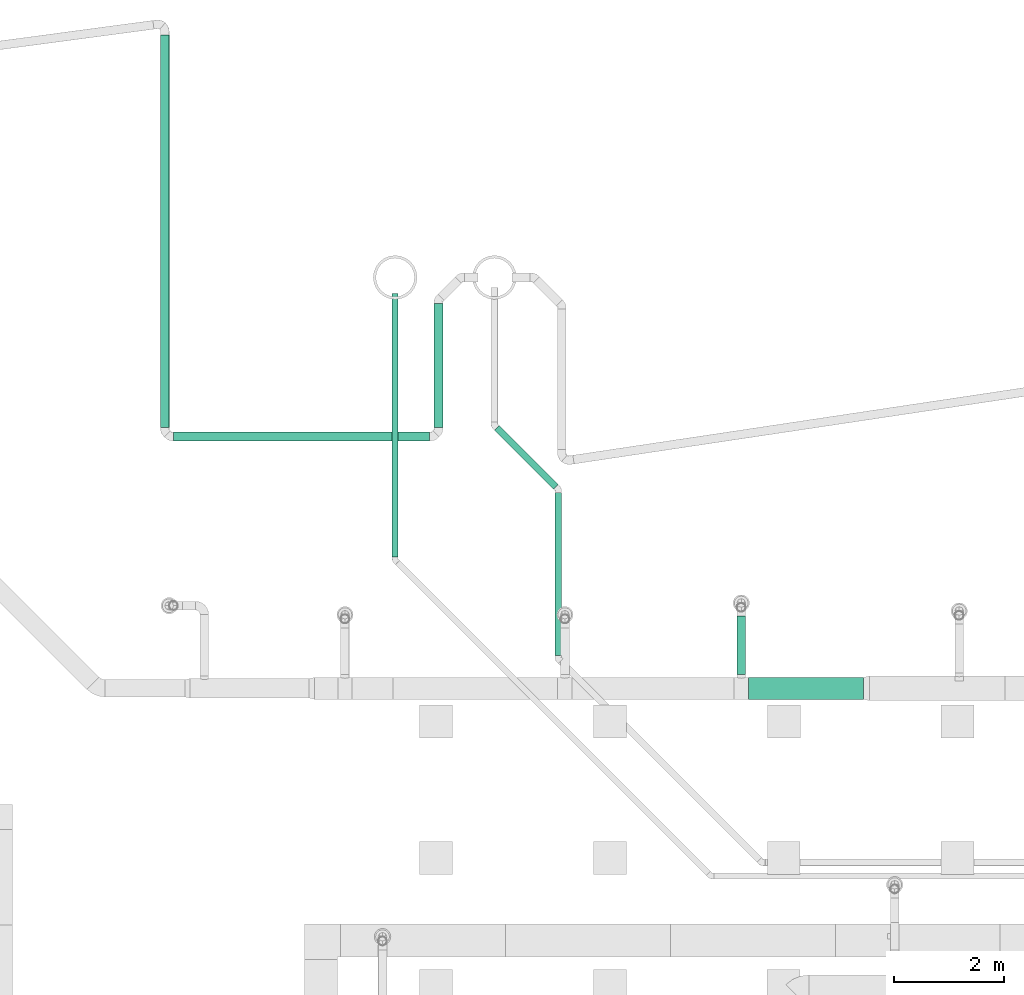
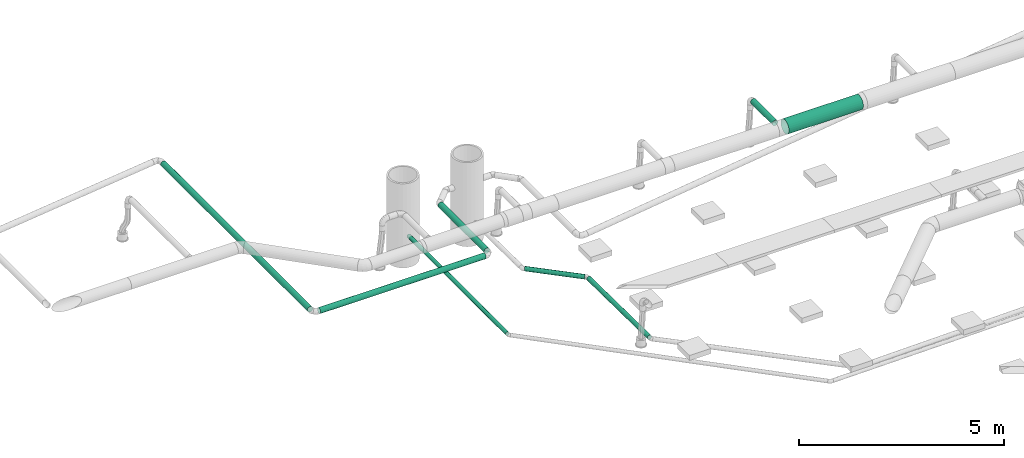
# One storey, part 221 of 374: 8 flow segments.
"""IFC2X3 building model written with IfcOpenShell, lengths in metres."""

import ifcopenshell
import ifcopenshell.guid

model = None  # the IFC model being written
_history = None  # IfcOwnerHistory: only IFC2X3 demands one
_inside = {}  # id of a spatial element -> (the spatial element, [elements in it])
_under = {}  # id of a project, library or spatial element -> (it, [spatial elements below it])
_declared = {}  # id of a project -> (the project, [libraries it declares])
_typed = {}  # id of a type object -> (the type object, [elements of that type])
_made_of = {}  # id of a material, layer set ... -> (it, [elements and type objects made of it])


def new_model(schema):
    """Start an empty IFC model of exactly this schema.

    Asked for "IFC4X3", IfcOpenShell would pick the latest addendum, in which some entities
    have other attributes; the version numbers below select the first issue.
    IFC2X3 requires an IfcOwnerHistory on every rooted entity: one is made here for all.
    """
    global model, _history
    if schema == "IFC4X3":
        model = ifcopenshell.file(schema_version=(4, 3, 0, 0))
    else:
        model = ifcopenshell.file(schema=schema)
    _inside.clear()
    _under.clear()
    _declared.clear()
    _typed.clear()
    _made_of.clear()
    _history = None
    if model.schema == "IFC2X3":
        org = make("IfcOrganization", Name="unknown")
        user = make(
            "IfcPersonAndOrganization",
            ThePerson=make("IfcPerson", FamilyName="unknown"),
            TheOrganization=org,
        )
        app = make(
            "IfcApplication",
            ApplicationDeveloper=org,
            Version="unknown",
            ApplicationFullName="unknown",
            ApplicationIdentifier="unknown",
        )
        _history = make(
            "IfcOwnerHistory",
            OwningUser=user,
            OwningApplication=app,
            ChangeAction="ADDED",
            CreationDate=0,
        )
    return model


def make(cls, **values):
    """One entity of the class cls with the attributes given. An attribute that is None is left unset."""
    return model.create_entity(
        cls, **{name: value for name, value in values.items() if value is not None}
    )


def rooted(cls, **values):
    """An entity with a GlobalId (a new one), such as an element, a storey or a relation."""
    return make(cls, GlobalId=ifcopenshell.guid.new(), OwnerHistory=_history, **values)


def si_unit(unit_type, name, prefix=None):
    """IfcSIUnit, for example si_unit("LENGTHUNIT", "METRE", prefix="MILLI")."""
    return make("IfcSIUnit", UnitType=unit_type, Prefix=prefix, Name=name)


def assignment(units):
    """IfcUnitAssignment: the units of a project."""
    return None if units is None else make("IfcUnitAssignment", Units=units)


def point(xyz):
    """IfcCartesianPoint."""
    return None if xyz is None else make("IfcCartesianPoint", Coordinates=xyz)


def direction(xyz):
    """IfcDirection."""
    return None if xyz is None else make("IfcDirection", DirectionRatios=xyz)


def frame(location, z_axis=None, x_axis=None):
    """IfcAxis2Placement3D, a coordinate frame: its origin and axes. An axis left out is left unset."""
    return make(
        "IfcAxis2Placement3D",
        Location=point(location),
        Axis=direction(z_axis),
        RefDirection=direction(x_axis),
    )


def origin():
    """The frame at (0, 0, 0) with its axes left unset."""
    return frame((0.0, 0.0, 0.0))


def place(relative_to, where):
    """IfcLocalPlacement: puts the frame where relative to a parent placement (None: the world)."""
    return make(
        "IfcLocalPlacement", PlacementRelTo=relative_to, RelativePlacement=where
    )


def context(
    kind, dimensions, precision=None, world=None, true_north=None, identifier=None
):
    """IfcGeometricRepresentationContext, for example the 3D "Model" context."""
    return make(
        "IfcGeometricRepresentationContext",
        ContextIdentifier=identifier,
        ContextType=kind,
        CoordinateSpaceDimension=dimensions,
        Precision=precision,
        WorldCoordinateSystem=world,
        TrueNorth=true_north,
    )


def subcontext(parent, identifier, kind, view, scale=None):
    """IfcGeometricRepresentationSubContext, for example "Body" below "Model"."""
    return make(
        "IfcGeometricRepresentationSubContext",
        ContextIdentifier=identifier,
        ContextType=kind,
        ParentContext=parent,
        TargetScale=scale,
        TargetView=view,
    )


def project(units=None, contexts=None):
    """IfcProject with its units and contexts."""
    return rooted(
        "IfcProject",
        Name="project",
        RepresentationContexts=contexts,
        UnitsInContext=assignment(units),
    )


def spatial(cls, under=None, at=None, **own):
    """A site, building, storey or space (cls), placed at a placement, below another one or the project."""
    s = rooted(cls, ObjectPlacement=at, **own)
    if under is not None:
        _under.setdefault(under.id(), (under, []))[1].append(s)
    return s


def faces_of(points, faces, orient=None, outer=None):
    """IfcFace entities. A face is a list of loops; a loop is a list of indices into points, from 0.

    orient and outer hold one flag for each loop. By default every Orientation is true, the
    first loop of a face is its IfcFaceOuterBound and the others are IfcFaceBound.
    """
    made = []
    for i, loops in enumerate(faces):
        bounds = []
        for j, loop in enumerate(loops):
            is_outer = j == 0 if outer is None else outer[i][j]
            bounds.append(
                make(
                    "IfcFaceOuterBound" if is_outer else "IfcFaceBound",
                    Bound=make("IfcPolyLoop", Polygon=[points[k] for k in loop]),
                    Orientation=True if orient is None else orient[i][j],
                )
            )
        made.append(make("IfcFace", Bounds=bounds))
    return made


def open_shell(faces, orient=None, outer=None):
    """The faces of one IfcOpenShell. surface_model builds it on its shared points."""
    return ("IfcOpenShell", faces, orient, outer)


def surface_model(cls, points, shells):
    """IfcFaceBasedSurfaceModel or IfcShellBasedSurfaceModel (cls): surfaces that need not close."""
    shared = [point(p) for p in points]
    made = [make(c, CfsFaces=faces_of(shared, fs, o, b)) for c, fs, o, b in shells]
    if cls == "IfcFaceBasedSurfaceModel":
        return make(cls, FbsmFaces=made)
    return make(cls, SbsmBoundary=made)


def shape(context_of_items, identifier, shape_type, items):
    """IfcShapeRepresentation: the items that make up one representation, for example the "Body"."""
    return make(
        "IfcShapeRepresentation",
        ContextOfItems=context_of_items,
        RepresentationIdentifier=identifier,
        RepresentationType=shape_type,
        Items=items,
    )


def source(mapping_origin, context_of_items, identifier, shape_type, items):
    """IfcRepresentationMap: a shape defined once, which mapped items show again and again."""
    return make(
        "IfcRepresentationMap",
        MappingOrigin=mapping_origin,
        MappedRepresentation=shape(context_of_items, identifier, shape_type, items),
    )


def transform(
    local_origin,
    x_axis=None,
    y_axis=None,
    z_axis=None,
    scale=None,
    scale2=None,
    scale3=None,
    uniform=True,
):
    """IfcCartesianTransformationOperator3D, or its non-uniform kind. x_axis, y_axis, z_axis: its Axis1, 2, 3."""
    if uniform:
        return make(
            "IfcCartesianTransformationOperator3D",
            Axis1=direction(x_axis),
            Axis2=direction(y_axis),
            LocalOrigin=point(local_origin),
            Scale=scale,
            Axis3=direction(z_axis),
        )
    return make(
        "IfcCartesianTransformationOperator3DnonUniform",
        Axis1=direction(x_axis),
        Axis2=direction(y_axis),
        LocalOrigin=point(local_origin),
        Scale=scale,
        Axis3=direction(z_axis),
        Scale2=scale2,
        Scale3=scale3,
    )


def mapped(mapping_source, mapping_target):
    """IfcMappedItem: shows the shape of a source again, moved by a transform."""
    return make(
        "IfcMappedItem", MappingSource=mapping_source, MappingTarget=mapping_target
    )


def made_of(thing, what):
    """Note that an element or type object is made of a material, layer set ...; save() writes the relation."""
    if what is not None:
        _made_of.setdefault(what.id(), (what, []))[1].append(thing)
    return thing


def element(
    cls,
    number,
    at=None,
    inside=None,
    cuts=None,
    type_object=None,
    material=None,
    context=None,
    identifier="Body",
    shape_type=None,
    held_by="IfcProductDefinitionShape",
    body=None,
    shapes=None,
    **own,
):
    """One element of the class cls, such as IfcWall. Its Tag is "e" and its number.

    at: its placement. inside: the storey or other place that contains it. cuts: it is an
    opening in that element (IfcRelVoidsElement). A single representation is given by context,
    identifier, shape_type and body (its items); several are given by shapes. held_by: the class
    of the entity that holds the representations. save() writes the other relations.
    """
    e = rooted(cls, Tag="e%d" % number, ObjectPlacement=at, **own)
    if body is not None:
        shapes = [shape(context, identifier, shape_type, body)]
    if shapes is not None:
        e.Representation = make(held_by, Representations=shapes)
    if inside is not None:
        _inside.setdefault(inside.id(), (inside, []))[1].append(e)
    if cuts is not None:
        rooted(
            "IfcRelVoidsElement", RelatingBuildingElement=cuts, RelatedOpeningElement=e
        )
    if type_object is not None:
        _typed.setdefault(type_object.id(), (type_object, []))[1].append(e)
    return made_of(e, material)


def aggregate(whole, parts):
    """IfcRelAggregates: a whole, such as a stair, and the parts it consists of."""
    return rooted("IfcRelAggregates", RelatingObject=whole, RelatedObjects=parts)


def save(model, path):
    """Write the relations noted so far, then the file.

    IfcRelAggregates (storeys below a building ...), IfcRelContainedInSpatialStructure (elements
    in a storey), IfcRelDefinesByType, IfcRelAssociatesMaterial and IfcRelDeclares: one each for
    every whole, place, type object, material and project.
    """
    for whole, parts in _under.values():
        aggregate(whole, parts)
    for where, things in _inside.values():
        rooted(
            "IfcRelContainedInSpatialStructure",
            RelatedElements=things,
            RelatingStructure=where,
        )
    for kind, things in _typed.values():
        rooted("IfcRelDefinesByType", RelatedObjects=things, RelatingType=kind)
    for what, things in _made_of.values():
        rooted("IfcRelAssociatesMaterial", RelatedObjects=things, RelatingMaterial=what)
    for by, libraries in _declared.values():
        rooted("IfcRelDeclares", RelatingContext=by, RelatedDefinitions=libraries)
    model.write(path)


model = new_model("IFC2X3")

# Units and contexts
model_context = context("Model", 3, precision=1e-05, world=origin(), true_north=direction((-0.4480736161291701, 0.8939966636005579)))
body_context = subcontext(model_context, "Body", "Model", "MODEL_VIEW")
ifc_project = project(units=[si_unit("LENGTHUNIT", "METRE"), si_unit("AREAUNIT", "SQUARE_METRE"), si_unit("VOLUMEUNIT", "CUBIC_METRE"), si_unit("PLANEANGLEUNIT", "RADIAN"), si_unit("THERMODYNAMICTEMPERATUREUNIT", "KELVIN"), si_unit("MASSUNIT", "GRAM", prefix="KILO"), si_unit("TIMEUNIT", "SECOND")], contexts=[model_context])

# Site, building, storey
site_placement = place(None, origin())
site = spatial("IfcSite", under=ifc_project, at=site_placement, Name="Site 1", CompositionType="ELEMENT")
building_placement = place(site_placement, origin())
building = spatial("IfcBuilding", under=site, at=building_placement, Name="Undefined", CompositionType="ELEMENT")
storey_placement = place(building_placement, origin())
storey = spatial("IfcBuildingStorey", under=building, at=storey_placement, Name="Rez de chauss\x8ee", CompositionType="ELEMENT", Elevation=0.0)

# Flow segments
shared_shape_1 = source(origin(), body_context, "Body", "SurfaceModel", [
    surface_model("IfcFaceBasedSurfaceModel", [(0.0, 0.020884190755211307, 0.0), (0.0, 0.0, 0.0), (7.143501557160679, 3.552713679e-15, 0.0), (7.143501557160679, 0.020884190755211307, 0.0), (0.0, -0.020172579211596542, -0.005405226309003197), (7.143501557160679, -0.020172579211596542, -0.005405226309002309), (0.0, -0.03825881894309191, -0.015847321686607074), (7.143501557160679, -0.038258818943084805, -0.015847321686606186), (0.0, -0.05302617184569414, -0.0306146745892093), (7.143501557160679, -0.053026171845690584, -0.030614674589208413), (0.0, -0.06346826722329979, -0.04870091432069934), (7.143501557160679, -0.06346826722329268, -0.04870091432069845), (0.0, -0.06887349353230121, -0.06887349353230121), (7.143501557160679, -0.06887349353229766, -0.06887349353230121), (0.0, -0.06887349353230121, -0.08975768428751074), (7.143501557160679, -0.0688734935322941, -0.08975768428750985), (0.0, -0.06346826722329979, -0.10993026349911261), (7.143501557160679, -0.06346826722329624, -0.1099302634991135), (0.0, -0.05302617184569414, -0.12801650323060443), (7.143501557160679, -0.05302617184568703, -0.1280165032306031), (0.0, -0.038258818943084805, -0.14278385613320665), (7.143501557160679, -0.038258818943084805, -0.142783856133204), (0.0, -0.020172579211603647, -0.15322595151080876), (7.143501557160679, -0.020172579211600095, -0.1532259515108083), (0.0, 7.105427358e-15, -0.15863117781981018), (7.143501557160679, 7.105427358e-15, -0.15863117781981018), (0.0, 0.020884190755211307, -0.15863117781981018), (7.143501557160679, 0.020884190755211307, -0.15863117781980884), (0.0, 0.04105676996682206, -0.15322595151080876), (7.143501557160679, 0.04105676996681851, -0.15322595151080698), (0.0, 0.05914300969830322, -0.1427838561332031), (7.143501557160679, 0.05914300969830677, -0.14278385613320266), (0.0, 0.07391036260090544, -0.12801650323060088), (7.143501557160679, 0.073910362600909, -0.12801650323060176), (0.0, 0.0843524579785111, -0.10993026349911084), (7.143501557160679, 0.0843524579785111, -0.10993026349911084), (0.0, 0.08975768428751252, -0.08975768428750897), (7.143501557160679, 0.08975768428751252, -0.08975768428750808), (0.0, 0.08975768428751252, -0.06887349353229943), (7.143501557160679, 0.08975768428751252, -0.06887349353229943), (0.0, 0.0843524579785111, -0.048700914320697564), (7.143501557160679, 0.08435245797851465, -0.048700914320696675), (0.0, 0.07391036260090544, -0.030614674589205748), (7.143501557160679, 0.073910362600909, -0.030614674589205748), (0.0, 0.05914300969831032, -0.015847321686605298), (7.143501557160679, 0.05914300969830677, -0.015847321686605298), (0.0, 0.04105676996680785, -0.005405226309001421), (7.143501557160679, 0.041056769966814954, -0.005405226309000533)], [open_shell([[[0, 1, 2, 3]], [[1, 4, 5, 2]], [[4, 6, 7, 5]], [[6, 8, 9, 7]], [[8, 10, 11, 9]], [[10, 12, 13, 11]], [[12, 14, 15, 13]], [[14, 16, 17, 15]], [[16, 18, 19, 17]], [[18, 20, 21, 19]], [[20, 22, 23, 21]], [[22, 24, 25, 23]], [[24, 26, 27, 25]], [[26, 28, 29, 27]], [[28, 30, 31, 29]], [[30, 32, 33, 31]], [[32, 34, 35, 33]], [[34, 36, 37, 35]], [[36, 38, 39, 37]], [[38, 40, 41, 39]], [[40, 42, 43, 41]], [[42, 44, 45, 43]], [[44, 46, 47, 45]], [[46, 0, 3, 47]]])]),
])
flow_segment_1_placement = place(storey_placement, origin())
element("IfcFlowSegment", 1, at=flow_segment_1_placement, inside=storey, Name="PE-HD tuyau", ObjectType="PE-HD tuyau", context=body_context, shape_type="MappedRepresentation", body=[
    mapped(shared_shape_1, transform((31.039457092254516, 25.269153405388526, -0.7163137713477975), x_axis=(0.0, 1.0, 0.0), y_axis=(-0.9914448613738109, 0.0, 0.1305261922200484), z_axis=(0.1305261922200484, 0.0, 0.9914448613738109))),
])
shared_shape_2 = source(origin(), body_context, "Body", "SurfaceModel", [
    surface_model("IfcFaceBasedSurfaceModel", [(4.655312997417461, 3.552713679e-15, 0.0), (4.65531323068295, 0.020884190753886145, 4.4408921e-16), (2.3326548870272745e-07, 0.020884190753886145, 4.4408921e-16), (0.0, 0.0, 0.0), (4.655313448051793, 0.041056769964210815, -0.005405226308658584), (4.506343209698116e-07, 0.041056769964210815, -0.00540522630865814), (4.655313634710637, 0.05914300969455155, -0.01584732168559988), (6.372931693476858e-07, 0.059143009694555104, -0.01584732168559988), (4.655313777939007, 0.07391036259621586, -0.030614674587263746), (7.805215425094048e-07, 0.07391036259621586, -0.030614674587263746), (4.655313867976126, 0.08435245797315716, -0.0487009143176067), (8.705586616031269e-07, 0.0843524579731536, -0.04870091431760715), (4.65531389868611, 0.08975768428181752, -0.0688734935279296), (9.012686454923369e-07, 0.08975768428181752, -0.06887349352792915), (4.655313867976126, 0.08975768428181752, -0.08975768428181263), (8.705586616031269e-07, 0.08975768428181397, -0.08975768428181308), (4.655313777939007, 0.08435245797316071, -0.10993026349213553), (7.805215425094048e-07, 0.08435245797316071, -0.10993026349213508), (4.655313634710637, 0.07391036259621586, -0.12801650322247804), (6.372931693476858e-07, 0.07391036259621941, -0.12801650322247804), (4.655313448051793, 0.059143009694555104, -0.14278385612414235), (4.506343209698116e-07, 0.059143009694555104, -0.1427838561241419), (4.65531323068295, 0.041056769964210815, -0.15322595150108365), (2.3326548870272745e-07, 0.041056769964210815, -0.15322595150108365), (4.655312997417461, 0.020884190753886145, -0.15863117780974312), (0.0, 0.020884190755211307, -0.15863117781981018), (4.655312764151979, 0.0, -0.15863117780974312), (-2.3326548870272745e-07, 7.105427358e-15, -0.15863117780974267), (4.6553125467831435, -0.020172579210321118, -0.15322595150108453), (-4.506343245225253e-07, -0.020172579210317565, -0.1532259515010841), (4.655312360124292, -0.038258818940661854, -0.14278385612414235), (-6.372931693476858e-07, -0.038258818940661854, -0.14278385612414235), (4.655312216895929, -0.05302617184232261, -0.12801650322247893), (-7.805215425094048e-07, -0.053026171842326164, -0.12801650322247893), (4.655312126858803, -0.06346826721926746, -0.10993026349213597), (-8.705586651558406e-07, -0.06346826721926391, -0.10993026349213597), (4.655312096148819, -0.06887349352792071, -0.08975768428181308), (-9.012686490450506e-07, -0.06887349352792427, -0.08975768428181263), (4.655312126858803, -0.06887349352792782, -0.06887349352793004), (-8.705586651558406e-07, -0.06887349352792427, -0.06887349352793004), (4.655312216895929, -0.06346826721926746, -0.04870091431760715), (-7.805215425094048e-07, -0.06346826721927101, -0.04870091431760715), (4.655312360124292, -0.053026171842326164, -0.030614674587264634), (-6.372931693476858e-07, -0.053026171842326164, -0.030614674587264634), (4.6553125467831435, -0.03825881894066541, -0.015847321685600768), (-4.506343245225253e-07, -0.038258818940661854, -0.015847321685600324), (4.655312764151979, -0.02017257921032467, -0.005405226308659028), (-2.3326548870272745e-07, -0.020172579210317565, -0.005405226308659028)], [open_shell([[[0, 1, 2, 3]], [[1, 4, 5, 2]], [[4, 6, 7, 5]], [[6, 8, 9, 7]], [[8, 10, 11, 9]], [[10, 12, 13, 11]], [[12, 14, 15, 13]], [[14, 16, 17, 15]], [[16, 18, 19, 17]], [[18, 20, 21, 19]], [[20, 22, 23, 21]], [[22, 24, 25, 23]], [[24, 26, 27, 25]], [[26, 28, 29, 27]], [[28, 30, 31, 29]], [[30, 32, 33, 31]], [[32, 34, 35, 33]], [[34, 36, 37, 35]], [[36, 38, 39, 37]], [[38, 40, 41, 39]], [[40, 42, 43, 41]], [[42, 44, 45, 43]], [[44, 46, 47, 45]], [[46, 0, 3, 47]]])]),
])
flow_segment_2_placement = place(storey_placement, origin())
element("IfcFlowSegment", 2, at=flow_segment_2_placement, inside=storey, Name="PE-HD tuyau", ObjectType="PE-HD tuyau", context=body_context, shape_type="MappedRepresentation", body=[
    mapped(shared_shape_2, transform((31.177848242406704, 25.110056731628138, -0.8735878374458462), x_axis=(0.9999999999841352, -5.632929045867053e-06, 0.0), y_axis=(-5.584738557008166e-06, -0.9914448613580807, 0.13052619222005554), z_axis=(-7.352447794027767e-07, -0.13052619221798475, -0.9914448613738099))),
])
shared_shape_3 = source(origin(), body_context, "Body", "SurfaceModel", [
    surface_model("IfcFaceBasedSurfaceModel", [(0.0, 0.020884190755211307, 0.0), (0.0, 0.0, 0.0), (2.255547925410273, 0.0, 0.0), (2.255547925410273, 0.0208841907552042, 0.0), (0.0, -0.020172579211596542, -0.005405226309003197), (2.255547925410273, -0.020172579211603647, -0.005405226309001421), (0.0, -0.03825881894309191, -0.015847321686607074), (2.255547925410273, -0.038258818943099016, -0.01584732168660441), (0.0, -0.05302617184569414, -0.0306146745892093), (2.255547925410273, -0.05302617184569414, -0.030614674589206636), (0.0, -0.06346826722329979, -0.04870091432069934), (2.255547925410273, -0.0634682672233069, -0.048700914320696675), (0.0, -0.06887349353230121, -0.06887349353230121), (2.255547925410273, -0.06887349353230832, -0.06887349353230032), (0.0, -0.06887349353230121, -0.08975768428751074), (2.255547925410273, -0.06887349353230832, -0.08975768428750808), (0.0, -0.06346826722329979, -0.10993026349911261), (2.255547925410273, -0.06346826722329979, -0.10993026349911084), (0.0, -0.05302617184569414, -0.12801650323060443), (2.255547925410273, -0.05302617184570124, -0.12801650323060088), (0.0, -0.038258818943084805, -0.14278385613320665), (2.255547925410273, -0.038258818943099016, -0.1427838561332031), (0.0, -0.020172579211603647, -0.15322595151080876), (2.255547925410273, -0.020172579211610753, -0.15322595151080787), (0.0, 7.105427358e-15, -0.15863117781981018), (2.255547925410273, 0.0, -0.1586311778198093), (0.0, 0.020884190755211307, -0.15863117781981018), (2.255547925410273, 0.020884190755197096, -0.1586311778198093), (0.0, 0.04105676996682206, -0.15322595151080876), (2.255547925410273, 0.041056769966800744, -0.15322595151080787), (0.0, 0.05914300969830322, -0.1427838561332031), (2.255547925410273, 0.05914300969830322, -0.142783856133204), (0.0, 0.07391036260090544, -0.12801650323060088), (2.255547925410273, 0.07391036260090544, -0.12801650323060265), (0.0, 0.0843524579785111, -0.10993026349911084), (2.255547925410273, 0.08435245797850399, -0.1099302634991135), (0.0, 0.08975768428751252, -0.08975768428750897), (2.255547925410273, 0.08975768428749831, -0.08975768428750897), (0.0, 0.08975768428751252, -0.06887349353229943), (2.255547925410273, 0.08975768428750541, -0.0688734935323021), (0.0, 0.0843524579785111, -0.048700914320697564), (2.255547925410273, 0.0843524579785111, -0.04870091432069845), (0.0, 0.07391036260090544, -0.030614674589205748), (2.255547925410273, 0.07391036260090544, -0.030614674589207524), (0.0, 0.05914300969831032, -0.015847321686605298), (2.255547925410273, 0.05914300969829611, -0.015847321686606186), (0.0, 0.04105676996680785, -0.005405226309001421), (2.255547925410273, 0.04105676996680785, -0.005405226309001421)], [open_shell([[[0, 1, 2, 3]], [[1, 4, 5, 2]], [[4, 6, 7, 5]], [[6, 8, 9, 7]], [[8, 10, 11, 9]], [[10, 12, 13, 11]], [[12, 14, 15, 13]], [[14, 16, 17, 15]], [[16, 18, 19, 17]], [[18, 20, 21, 19]], [[20, 22, 23, 21]], [[22, 24, 25, 23]], [[24, 26, 27, 25]], [[26, 28, 29, 27]], [[28, 30, 31, 29]], [[30, 32, 33, 31]], [[32, 34, 35, 33]], [[34, 36, 37, 35]], [[36, 38, 39, 37]], [[38, 40, 41, 39]], [[40, 42, 43, 41]], [[42, 44, 45, 43]], [[44, 46, 47, 45]], [[46, 0, 3, 47]]])]),
])
flow_segment_3_placement = place(storey_placement, origin())
element("IfcFlowSegment", 3, at=flow_segment_3_placement, inside=storey, Name="PE-HD tuyau", ObjectType="PE-HD tuyau", context=body_context, shape_type="MappedRepresentation", body=[
    mapped(shared_shape_3, transform((36.013026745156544, 27.5247013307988, -0.8708619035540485), x_axis=(0.0, -1.0, 0.0), y_axis=(-0.9914448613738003, 0.0, -0.13052619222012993), z_axis=(0.130526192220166, 0.0, -0.9914448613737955))),
])
shared_shape_4 = source(origin(), body_context, "Body", "SurfaceModel", [
    surface_model("IfcFaceBasedSurfaceModel", [(0.0, 0.014357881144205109, -3.552713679e-15), (0.0, 0.0, 0.0), (4.800000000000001, 0.0, -4.4408921e-16), (4.800000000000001, 0.014357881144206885, 4.4408921e-16), (0.0, -0.01386864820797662, -0.0037160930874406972), (4.800000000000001, -0.013868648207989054, -0.0037160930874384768), (0.0, -0.026302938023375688, -0.010895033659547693), (4.800000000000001, -0.02630293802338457, -0.010895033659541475), (0.0, -0.03645549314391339, -0.021047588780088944), (4.800000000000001, -0.03645549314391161, -0.021047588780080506), (0.0, -0.04363443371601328, -0.033481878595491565), (4.800000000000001, -0.04363443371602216, -0.03348187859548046), (0.0, -0.04735052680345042, -0.04735052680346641), (4.800000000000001, -0.04735052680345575, -0.04735052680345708), (0.0, -0.04735052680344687, -0.06170840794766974), (4.800000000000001, -0.047350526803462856, -0.06170840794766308), (0.0, -0.04363443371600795, -0.07557705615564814), (4.800000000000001, -0.04363443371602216, -0.07557705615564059), (0.0, -0.03645549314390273, -0.08801134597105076), (4.800000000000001, -0.036455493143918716, -0.08801134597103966), (0.0, -0.026302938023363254, -0.0981639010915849), (4.800000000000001, -0.026302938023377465, -0.09816390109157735), (0.0, -0.013868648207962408, -0.1053428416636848), (4.800000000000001, -0.013868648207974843, -0.10534284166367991), (0.0, 1.5987211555e-14, -0.10905893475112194), (4.800000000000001, 0.0, -0.10905893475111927), (0.0, 0.014357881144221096, -0.10905893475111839), (4.800000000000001, 0.01435788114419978, -0.10905893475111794), (0.0, 0.028226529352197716, -0.10534284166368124), (4.800000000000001, 0.02822652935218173, -0.10534284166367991), (0.0, 0.040660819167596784, -0.0981639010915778), (4.800000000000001, 0.040660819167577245, -0.09816390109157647), (0.0, 0.05081337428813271, -0.08801134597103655), (4.800000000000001, 0.050813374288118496, -0.08801134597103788), (0.0, 0.05799231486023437, -0.07557705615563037), (4.800000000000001, 0.057992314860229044, -0.07557705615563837), (0.0, 0.06170840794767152, -0.06170840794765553), (4.800000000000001, 0.061708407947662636, -0.06170840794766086), (0.0, 0.061708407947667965, -0.0473505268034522), (4.800000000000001, 0.061708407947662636, -0.04735052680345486), (0.0, 0.05799231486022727, -0.033481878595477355), (4.800000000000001, 0.05799231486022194, -0.03348187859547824), (0.0, 0.050813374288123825, -0.021047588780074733), (4.800000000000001, 0.05081337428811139, -0.021047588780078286), (0.0, 0.04066081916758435, -0.010895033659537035), (4.800000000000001, 0.04066081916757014, -0.010895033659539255), (0.0, 0.028226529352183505, -0.0037160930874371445), (4.800000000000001, 0.02822652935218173, -0.0037160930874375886)], [open_shell([[[0, 1, 2, 3]], [[1, 4, 5, 2]], [[4, 6, 7, 5]], [[6, 8, 9, 7]], [[8, 10, 11, 9]], [[10, 12, 13, 11]], [[12, 14, 15, 13]], [[14, 16, 17, 15]], [[16, 18, 19, 17]], [[18, 20, 21, 19]], [[20, 22, 23, 21]], [[22, 24, 25, 23]], [[24, 26, 27, 25]], [[26, 28, 29, 27]], [[28, 30, 31, 29]], [[30, 32, 33, 31]], [[32, 34, 35, 33]], [[34, 36, 37, 35]], [[36, 38, 39, 37]], [[38, 40, 41, 39]], [[40, 42, 43, 41]], [[42, 44, 45, 43]], [[44, 46, 47, 45]], [[46, 0, 3, 47]]])]),
])
flow_segment_4_placement = place(storey_placement, origin())
element("IfcFlowSegment", 4, at=flow_segment_4_placement, inside=storey, Name="PE-HD tuyau", ObjectType="PE-HD tuyau", context=body_context, shape_type="MappedRepresentation", body=[
    mapped(shared_shape_4, transform((35.219612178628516, 22.912724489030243, -1.5013434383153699), x_axis=(0.0, 1.0, 0.0), y_axis=(-0.9932910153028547, 0.0, 0.1156415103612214), z_axis=(0.11564151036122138, 0.0, 0.9932910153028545))),
])
shared_shape_5 = source(origin(), body_context, "Body", "SurfaceModel", [
    surface_model("IfcFaceBasedSurfaceModel", [(0.0, 0.0163157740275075, 0.0), (0.0, 0.0, 0.0), (2.9579178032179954, -7.105427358e-15, 1.33226763e-15), (2.9579178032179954, 0.016315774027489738, 1.776356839e-15), (0.0, -0.015759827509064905, -0.004222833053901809), (2.957917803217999, -0.01575982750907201, -0.004222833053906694), (0.0, -0.029889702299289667, -0.012380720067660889), (2.957917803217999, -0.02988970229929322, -0.012380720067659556), (0.0, -0.04142669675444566, -0.02391771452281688), (2.957917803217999, -0.041426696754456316, -0.023917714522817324), (0.0, -0.04958458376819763, -0.038047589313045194), (2.9579178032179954, -0.04958458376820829, -0.03804758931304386), (0.0, -0.053807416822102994, -0.053807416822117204), (2.957917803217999, -0.053807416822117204, -0.05380741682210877), (0.0, -0.053807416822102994, -0.07012319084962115), (2.957917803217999, -0.053807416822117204, -0.07012319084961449), (0.0, -0.04958458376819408, -0.08588301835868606), (2.9579178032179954, -0.04958458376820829, -0.08588301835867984), (0.0, -0.04142669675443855, -0.10001289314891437), (2.9579178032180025, -0.041426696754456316, -0.10001289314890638), (0.0, -0.02988970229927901, -0.11154988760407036), (2.957917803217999, -0.02988970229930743, -0.1115498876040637), (0.0, -0.015759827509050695, -0.11970777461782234), (2.957917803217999, -0.01575982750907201, -0.11970777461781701), (0.0, 1.4210854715e-14, -0.12393060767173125), (2.9579178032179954, -7.105427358e-15, -0.12393060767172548), (0.0, 0.016315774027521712, -0.12393060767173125), (2.9579178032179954, 0.01631577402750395, -0.12393060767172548), (0.0, 0.03207560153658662, -0.11970777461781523), (2.9579178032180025, 0.03207560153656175, -0.11970777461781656), (0.0, 0.04620547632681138, -0.11154988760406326), (2.9579178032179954, 0.04620547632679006, -0.11154988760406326), (0.0, 0.05774247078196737, -0.10001289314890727), (2.957917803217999, 0.057742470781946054, -0.10001289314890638), (0.0, 0.06590035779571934, -0.08588301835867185), (2.957917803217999, 0.06590035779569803, -0.0858830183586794), (0.0, 0.0701231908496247, -0.07012319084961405), (2.957917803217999, 0.07012319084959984, -0.0701231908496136), (0.0, 0.0701231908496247, -0.05380741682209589), (2.9579178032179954, 0.07012319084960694, -0.05380741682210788), (0.0, 0.06590035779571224, -0.03804758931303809), (2.957917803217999, 0.06590035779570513, -0.03804758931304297), (0.0, 0.05774247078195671, -0.023917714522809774), (2.957917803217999, 0.057742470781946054, -0.023917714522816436), (0.0, 0.04620547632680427, -0.012380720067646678), (2.957917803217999, 0.04620547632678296, -0.012380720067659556), (0.0, 0.03207560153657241, -0.004222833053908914), (2.9579178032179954, 0.03207560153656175, -0.004222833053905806)], [open_shell([[[0, 1, 2, 3]], [[1, 4, 5, 2]], [[4, 6, 7, 5]], [[6, 8, 9, 7]], [[8, 10, 11, 9]], [[10, 12, 13, 11]], [[12, 14, 15, 13]], [[14, 16, 17, 15]], [[16, 18, 19, 17]], [[18, 20, 21, 19]], [[20, 22, 23, 21]], [[22, 24, 25, 23]], [[24, 26, 27, 25]], [[26, 28, 29, 27]], [[28, 30, 31, 29]], [[30, 32, 33, 31]], [[32, 34, 35, 33]], [[34, 36, 37, 35]], [[36, 38, 39, 37]], [[38, 40, 41, 39]], [[40, 42, 43, 41]], [[42, 44, 45, 43]], [[44, 46, 47, 45]], [[46, 0, 3, 47]]])]),
])
flow_segment_5_placement = place(storey_placement, origin())
element("IfcFlowSegment", 5, at=flow_segment_5_placement, inside=storey, Name="PE-HD tuyau", ObjectType="PE-HD tuyau", context=body_context, shape_type="MappedRepresentation", body=[
    mapped(shared_shape_5, transform((38.187762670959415, 21.12824196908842, -1.5588354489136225), x_axis=(-6.564632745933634e-05, 0.9998999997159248, -0.014141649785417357), y_axis=(-0.993191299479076, 0.001582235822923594, 0.11648407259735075), z_axis=(0.11649479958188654, 0.014053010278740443, 0.9930918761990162))),
])
shared_shape_6 = source(origin(), body_context, "Body", "SurfaceModel", [
    surface_model("IfcFaceBasedSurfaceModel", [(1.516685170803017, 0.0, 1.33226763e-15), (1.5166851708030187, 0.01631577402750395, -4.4408921e-16), (0.0, 0.0163157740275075, 0.0), (0.0, 0.0, 0.0), (1.5166851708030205, 0.032075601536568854, -0.004222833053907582), (0.0, 0.03207560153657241, -0.004222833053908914), (1.5166851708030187, 0.04620547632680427, -0.012380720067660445), (0.0, 0.04620547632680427, -0.012380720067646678), (1.5166851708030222, 0.05774247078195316, -0.023917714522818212), (0.0, 0.05774247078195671, -0.023917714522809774), (1.5166851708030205, 0.06590035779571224, -0.03804758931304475), (0.0, 0.06590035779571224, -0.03804758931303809), (1.5166851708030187, 0.07012319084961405, -0.05380741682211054), (0.0, 0.0701231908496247, -0.05380741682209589), (1.5166851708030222, 0.07012319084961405, -0.07012319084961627), (0.0, 0.0701231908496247, -0.07012319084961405), (1.516685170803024, 0.06590035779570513, -0.08588301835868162), (0.0, 0.06590035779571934, -0.08588301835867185), (1.5166851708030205, 0.05774247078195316, -0.10001289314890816), (0.0, 0.05774247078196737, -0.10001289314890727), (1.516685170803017, 0.04620547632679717, -0.11154988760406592), (0.0, 0.04620547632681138, -0.11154988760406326), (1.5166851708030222, 0.03207560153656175, -0.1197077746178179), (0.0, 0.03207560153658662, -0.11970777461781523), (1.5166851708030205, 0.016315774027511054, -0.12393060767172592), (0.0, 0.016315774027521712, -0.12393060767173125), (1.5166851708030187, -7.105427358e-15, -0.12393060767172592), (0.0, 1.4210854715e-14, -0.12393060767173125), (1.516685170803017, -0.015759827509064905, -0.1197077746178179), (0.0, -0.015759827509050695, -0.11970777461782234), (1.516685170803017, -0.02988970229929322, -0.11154988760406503), (0.0, -0.02988970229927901, -0.11154988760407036), (1.5166851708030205, -0.041426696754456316, -0.10001289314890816), (0.0, -0.04142669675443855, -0.10001289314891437), (1.5166851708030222, -0.04958458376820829, -0.08588301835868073), (0.0, -0.04958458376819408, -0.08588301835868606), (1.5166851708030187, -0.0538074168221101, -0.07012319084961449), (0.0, -0.053807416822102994, -0.07012319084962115), (1.516685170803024, -0.0538074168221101, -0.05380741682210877), (0.0, -0.053807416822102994, -0.053807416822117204), (1.5166851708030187, -0.049584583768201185, -0.03804758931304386), (0.0, -0.04958458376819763, -0.038047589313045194), (1.5166851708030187, -0.041426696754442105, -0.023917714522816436), (0.0, -0.04142669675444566, -0.02391771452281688), (1.516685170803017, -0.02988970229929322, -0.012380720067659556), (0.0, -0.029889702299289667, -0.012380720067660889), (1.5166851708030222, -0.01575982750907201, -0.004222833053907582), (0.0, -0.015759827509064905, -0.004222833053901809)], [open_shell([[[0, 1, 2, 3]], [[1, 4, 5, 2]], [[4, 6, 7, 5]], [[6, 8, 9, 7]], [[8, 10, 11, 9]], [[10, 12, 13, 11]], [[12, 14, 15, 13]], [[14, 16, 17, 15]], [[16, 18, 19, 17]], [[18, 20, 21, 19]], [[20, 22, 23, 21]], [[22, 24, 25, 23]], [[24, 26, 27, 25]], [[26, 28, 29, 27]], [[28, 30, 31, 29]], [[30, 32, 33, 31]], [[32, 34, 35, 33]], [[34, 36, 37, 35]], [[36, 38, 39, 37]], [[38, 40, 41, 39]], [[40, 42, 43, 41]], [[42, 44, 45, 43]], [[44, 46, 47, 45]], [[46, 0, 3, 47]]])]),
])
flow_segment_6_placement = place(storey_placement, origin())
element("IfcFlowSegment", 6, at=flow_segment_6_placement, inside=storey, Name="PE-HD tuyau", ObjectType="PE-HD tuyau", context=body_context, shape_type="MappedRepresentation", body=[
    mapped(shared_shape_6, transform((37.056705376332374, 25.263027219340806, -1.7562006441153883), x_axis=(0.7069654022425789, -0.706965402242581, 0.01999600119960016), y_axis=(-0.702902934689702, -0.6992118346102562, 0.13050009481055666), z_axis=(-0.07827761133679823, -0.10631429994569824, -0.991246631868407))),
])
shared_shape_7 = source(origin(), body_context, "Body", "SurfaceModel", [
    surface_model("IfcFaceBasedSurfaceModel", [(0.0, 0.020884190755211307, 0.0), (0.0, 0.0, 0.0), (1.0620256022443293, 0.0, 1.776356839e-15), (1.0620256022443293, 0.020884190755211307, 1.776356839e-15), (0.0, -0.020172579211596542, -0.005405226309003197), (1.0620256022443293, -0.020172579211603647, -0.005405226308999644), (0.0, -0.03825881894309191, -0.015847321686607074), (1.0620256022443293, -0.038258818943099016, -0.01584732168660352), (0.0, -0.05302617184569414, -0.0306146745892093), (1.0620256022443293, -0.05302617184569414, -0.030614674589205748), (0.0, -0.06346826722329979, -0.04870091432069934), (1.0620256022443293, -0.0634682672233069, -0.04870091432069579), (0.0, -0.06887349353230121, -0.06887349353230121), (1.0620256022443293, -0.06887349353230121, -0.06887349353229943), (0.0, -0.06887349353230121, -0.08975768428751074), (1.0620256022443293, -0.06887349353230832, -0.08975768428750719), (0.0, -0.06346826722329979, -0.10993026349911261), (1.0620256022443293, -0.06346826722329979, -0.10993026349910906), (0.0, -0.05302617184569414, -0.12801650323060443), (1.0620256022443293, -0.05302617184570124, -0.12801650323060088), (0.0, -0.038258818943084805, -0.14278385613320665), (1.0620256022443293, -0.03825881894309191, -0.14278385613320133), (0.0, -0.020172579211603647, -0.15322595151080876), (1.0620256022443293, -0.020172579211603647, -0.1532259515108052), (0.0, 7.105427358e-15, -0.15863117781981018), (1.0620256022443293, 0.0, -0.15863117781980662), (0.0, 0.020884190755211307, -0.15863117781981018), (1.0620256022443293, 0.0208841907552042, -0.15863117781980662), (0.0, 0.04105676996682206, -0.15322595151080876), (1.0620256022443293, 0.04105676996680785, -0.1532259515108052), (0.0, 0.05914300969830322, -0.1427838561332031), (1.0620256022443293, 0.05914300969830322, -0.1427838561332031), (0.0, 0.07391036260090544, -0.12801650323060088), (1.0620256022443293, 0.07391036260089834, -0.12801650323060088), (0.0, 0.0843524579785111, -0.10993026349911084), (1.0620256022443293, 0.08435245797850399, -0.10993026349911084), (0.0, 0.08975768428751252, -0.08975768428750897), (1.0620256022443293, 0.08975768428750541, -0.08975768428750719), (0.0, 0.08975768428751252, -0.06887349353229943), (1.0620256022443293, 0.08975768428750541, -0.06887349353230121), (0.0, 0.0843524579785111, -0.048700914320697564), (1.0620256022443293, 0.08435245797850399, -0.04870091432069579), (0.0, 0.07391036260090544, -0.030614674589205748), (1.0620256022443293, 0.07391036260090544, -0.030614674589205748), (0.0, 0.05914300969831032, -0.015847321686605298), (1.0620256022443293, 0.05914300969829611, -0.01584732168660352), (0.0, 0.04105676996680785, -0.005405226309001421), (1.0620256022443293, 0.04105676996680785, -0.005405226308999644)], [open_shell([[[0, 1, 2, 3]], [[1, 4, 5, 2]], [[4, 6, 7, 5]], [[6, 8, 9, 7]], [[8, 10, 11, 9]], [[10, 12, 13, 11]], [[12, 14, 15, 13]], [[14, 16, 17, 15]], [[16, 18, 19, 17]], [[18, 20, 21, 19]], [[20, 22, 23, 21]], [[22, 24, 25, 23]], [[24, 26, 27, 25]], [[26, 28, 29, 27]], [[28, 30, 31, 29]], [[30, 32, 33, 31]], [[32, 34, 35, 33]], [[34, 36, 37, 35]], [[36, 38, 39, 37]], [[38, 40, 41, 39]], [[40, 42, 43, 41]], [[42, 44, 45, 43]], [[44, 46, 47, 45]], [[46, 0, 3, 47]]])]),
])
flow_segment_7_placement = place(storey_placement, origin())
element("IfcFlowSegment", 7, at=flow_segment_7_placement, inside=storey, Name="Tube", ObjectType="Tube", context=body_context, shape_type="MappedRepresentation", body=[
    mapped(shared_shape_7, transform((41.5218899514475, 20.776888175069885, 3.877274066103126), x_axis=(0.0, 1.0, 0.0), y_axis=(-0.9914448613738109, 0.0, 0.1305261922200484), z_axis=(0.1305261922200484, 0.0, 0.9914448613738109))),
])
shared_shape_8 = source(origin(), body_context, "Body", "SurfaceModel", [
    surface_model("IfcFaceBasedSurfaceModel", [(0.0, 0.05221047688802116, -8.8817842e-16), (0.0, 0.0, 0.0), (2.0923694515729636, 0.0, -8.8817842e-16), (2.0923694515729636, 0.05221047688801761, -8.8817842e-16), (0.0, -0.05043144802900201, -0.013513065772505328), (2.0923694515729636, -0.05043144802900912, -0.013513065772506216), (0.0, -0.09564704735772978, -0.0396183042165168), (2.0923694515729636, -0.09564704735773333, -0.0396183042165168), (0.0, -0.1325654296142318, -0.07653668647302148), (2.0923694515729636, -0.13256542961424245, -0.07653668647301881), (0.0, -0.15867066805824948, -0.12175228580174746), (2.0923694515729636, -0.15867066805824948, -0.1217522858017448), (0.0, -0.17218373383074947, -0.17218373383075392), (2.0923694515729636, -0.17218373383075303, -0.17218373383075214), (0.0, -0.17218373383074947, -0.22439421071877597), (2.0923694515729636, -0.17218373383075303, -0.2243942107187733), (0.0, -0.15867066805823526, -0.2748256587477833), (2.0923694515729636, -0.15867066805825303, -0.27482565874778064), (0.0, -0.1325654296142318, -0.3200412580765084), (2.0923694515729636, -0.1325654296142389, -0.3200412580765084), (0.0, -0.09564704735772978, -0.35695964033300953), (2.0923694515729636, -0.09564704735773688, -0.3569596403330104), (0.0, -0.050431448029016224, -0.3830648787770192), (2.0923694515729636, -0.05043144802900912, -0.383064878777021), (0.0, 0.0, -0.39657794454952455), (2.0923694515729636, -3.552713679e-15, -0.39657794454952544), (0.0, 0.05221047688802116, -0.3965779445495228), (2.0923694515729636, 0.05221047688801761, -0.39657794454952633), (0.0, 0.10264192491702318, -0.38306487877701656), (2.0923694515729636, 0.10264192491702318, -0.383064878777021), (0.0, 0.14785752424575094, -0.356959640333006), (2.0923694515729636, 0.14785752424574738, -0.3569596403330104), (0.0, 0.18477590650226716, -0.32004125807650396), (2.0923694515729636, 0.18477590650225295, -0.3200412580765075), (0.0, 0.21088114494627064, -0.2748256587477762), (2.0923694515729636, 0.21088114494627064, -0.2748256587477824), (0.0, 0.22439421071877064, -0.22439421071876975), (2.0923694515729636, 0.22439421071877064, -0.2243942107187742), (0.0, 0.22439421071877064, -0.1721837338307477), (2.0923694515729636, 0.2243942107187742, -0.17218373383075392), (0.0, 0.21088114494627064, -0.12175228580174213), (2.0923694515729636, 0.21088114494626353, -0.12175228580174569), (0.0, 0.18477590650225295, -0.07653668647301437), (2.0923694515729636, 0.18477590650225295, -0.07653668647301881), (0.0, 0.14785752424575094, -0.03961830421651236), (2.0923694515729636, 0.14785752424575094, -0.0396183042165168), (0.0, 0.10264192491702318, -0.013513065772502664), (2.0923694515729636, 0.10264192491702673, -0.013513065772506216)], [open_shell([[[0, 1, 2, 3]], [[1, 4, 5, 2]], [[4, 6, 7, 5]], [[6, 8, 9, 7]], [[8, 10, 11, 9]], [[10, 12, 13, 11]], [[12, 14, 15, 13]], [[14, 16, 17, 15]], [[16, 18, 19, 17]], [[18, 20, 21, 19]], [[20, 22, 23, 21]], [[22, 24, 25, 23]], [[24, 26, 27, 25]], [[26, 28, 29, 27]], [[28, 30, 31, 29]], [[30, 32, 33, 31]], [[32, 34, 35, 33]], [[34, 36, 37, 35]], [[36, 38, 39, 37]], [[38, 40, 41, 39]], [[40, 42, 43, 41]], [[42, 44, 45, 43]], [[44, 46, 47, 45]], [[46, 0, 3, 47]]])]),
])
flow_segment_8_placement = place(storey_placement, origin())
element("IfcFlowSegment", 8, at=flow_segment_8_placement, inside=storey, Name="Tube", ObjectType="Tube", context=body_context, shape_type="MappedRepresentation", body=[
    mapped(shared_shape_8, transform((43.72355387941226, 20.57865198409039, 3.9931851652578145), x_axis=(-1.0, 0.0, 0.0), y_axis=(7.266545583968e-12, -0.9914448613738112, 0.13052619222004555), z_axis=(0.0, 0.13052619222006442, 0.9914448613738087))),
])

save(model, "model.ifc")
